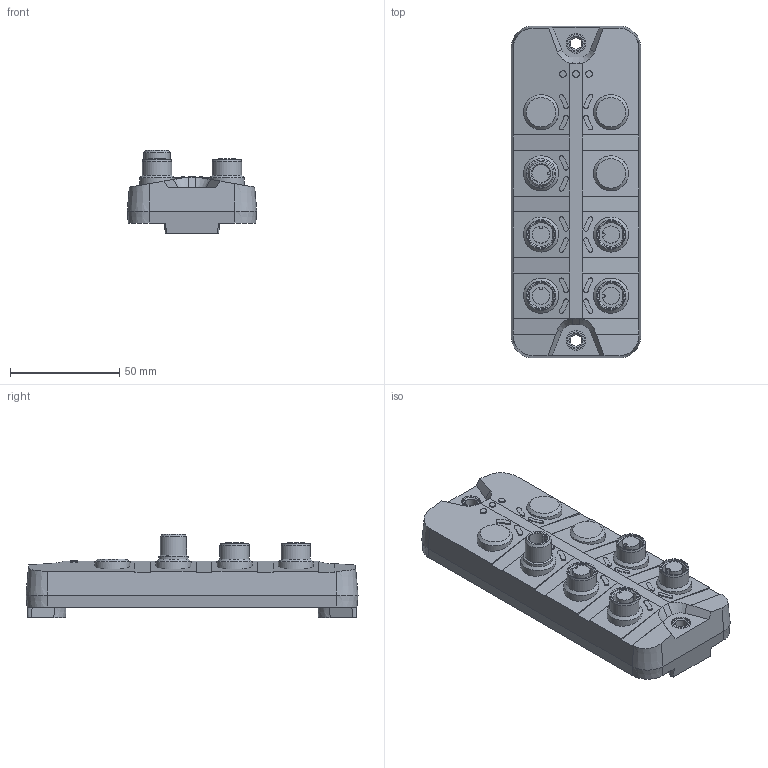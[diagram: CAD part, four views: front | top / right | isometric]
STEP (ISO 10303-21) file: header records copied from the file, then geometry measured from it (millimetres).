
FILE_DESCRIPTION( ( 'STEP AP203' ), '1' );
FILE_NAME( 'p:/temp/worker_24/temp/exporttempdir_1012_103_0hK5M/format_0/AC2950.stp', '2021-10-15T08:14:20', ( 'License CC BY-ND 4.0' ), ( 'CADENAS' ), ' ', 'PARTsolutions', ' ' );
FILE_SCHEMA( ( 'CONFIG_CONTROL_DESIGN' ) );
Length unit declared in the file: millimetre
Products named in the file (1): _AC2950
Bounding box: 59.3 x 152 x 38.25 mm (x, y, z)
Volume: 173382.5 mm3; surface area: 30659.3 mm2
Topology: 1 solids, 1 shells, 253 faces, 586 edges, 375 vertices
Faces by surface type: plane 113, cylinder 97, cone 43
Full cylindrical faces by diameter (mm): 3 x3, 5.3 x2, 8.3 x1, 10.917 x4, 12 x1, 12.1 x4, 13.5 x5, 16 x8
Entity records: 6974 total; most frequent: DIRECTION 1284, CARTESIAN_POINT 1176, ORIENTED_EDGE 1056, EDGE_CURVE 528, AXIS2_PLACEMENT_3D 506, VERTEX_POINT 370, EDGE_LOOP 350, FACE_OUTER_BOUND 281
